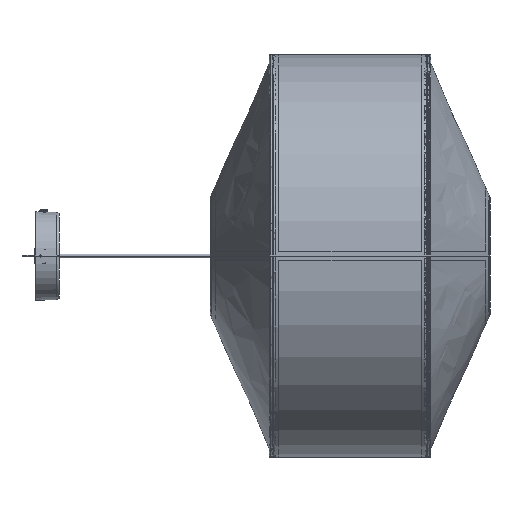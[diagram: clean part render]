
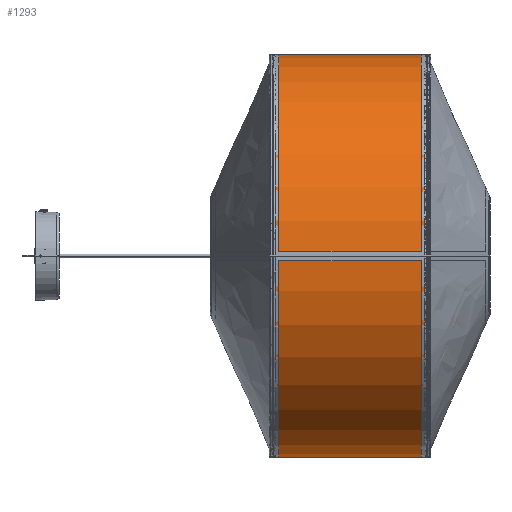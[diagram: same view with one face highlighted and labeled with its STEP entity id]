
A CAD part, left-side view. The second image highlights one B-rep face of the part: STEP entity #1293.
In plain terms, the highlighted cylindrical face has radius 324.75 mm (diameter 649.5 mm), a partial arc.
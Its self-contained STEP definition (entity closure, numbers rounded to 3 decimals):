
#1293=ADVANCED_FACE('',(#5000),#63438,.T.);
#5000=FACE_OUTER_BOUND('',#8757,.T.);
#8757=EDGE_LOOP('',(#14218,#14219,#14220,#14221));
#14218=ORIENTED_EDGE('',*,*,#33306,.F.);
#14219=ORIENTED_EDGE('',*,*,#33311,.F.);
#14220=ORIENTED_EDGE('',*,*,#33308,.F.);
#14221=ORIENTED_EDGE('',*,*,#33310,.T.);
#33306=EDGE_CURVE('',#54216,#54220,#45315,.T.);
#33308=EDGE_CURVE('',#54221,#54217,#45316,.T.);
#33310=EDGE_CURVE('',#54221,#54220,#42769,.T.);
#33311=EDGE_CURVE('',#54217,#54216,#42770,.T.);
#42769=TRIMMED_CURVE($,#43924,(#87992),(#87993),.T.,.CARTESIAN.);
#42770=TRIMMED_CURVE($,#43925,(#87995),(#87996),.T.,.CARTESIAN.);
#43924=CIRCLE('',#67328,324.75);
#43925=CIRCLE('',#67329,324.75);
#45315=B_SPLINE_CURVE_WITH_KNOTS('',1,(#87981,#87982),.UNSPECIFIED.,.F.,
 .F.,(2,2),(-258.,0.),.UNSPECIFIED.);
#45316=B_SPLINE_CURVE_WITH_KNOTS('',1,(#87986,#87987),.UNSPECIFIED.,.F.,
 .F.,(2,2),(-258.,0.),.UNSPECIFIED.);
#54216=VERTEX_POINT('',#87973);
#54217=VERTEX_POINT('',#87974);
#54220=VERTEX_POINT('',#87977);
#54221=VERTEX_POINT('',#87978);
#63438=CYLINDRICAL_SURFACE('',#67322,324.75);
#67322=AXIS2_PLACEMENT_3D('',#87969,#72297,$);
#67328=AXIS2_PLACEMENT_3D($,#87991,#72305,#72306);
#67329=AXIS2_PLACEMENT_3D($,#87994,#72307,#72308);
#72297=DIRECTION('',(0.,-1.,0.));
#72305=DIRECTION('',(0.,-1.,0.));
#72306=DIRECTION('',(0.,0.,1.));
#72307=DIRECTION('',(0.,-1.,0.));
#72308=DIRECTION('',(0.,0.,1.));
#87969=CARTESIAN_POINT('',(0.,0.,0.));
#87973=CARTESIAN_POINT('',(0.,-129.,-324.75));
#87974=CARTESIAN_POINT('',(0.,-129.,324.75));
#87977=CARTESIAN_POINT('',(0.,129.,-324.75));
#87978=CARTESIAN_POINT('',(0.,129.,324.75));
#87981=CARTESIAN_POINT('',(0.,-129.,-324.75));
#87982=CARTESIAN_POINT('',(0.,129.,-324.75));
#87986=CARTESIAN_POINT('',(0.,129.,324.75));
#87987=CARTESIAN_POINT('',(0.,-129.,324.75));
#87991=CARTESIAN_POINT('',(0.,129.,0.));
#87992=CARTESIAN_POINT('',(0.,129.,324.75));
#87993=CARTESIAN_POINT('',(0.,129.,-324.75));
#87994=CARTESIAN_POINT('',(0.,-129.,0.));
#87995=CARTESIAN_POINT('',(0.,-129.,324.75));
#87996=CARTESIAN_POINT('',(0.,-129.,-324.75));
